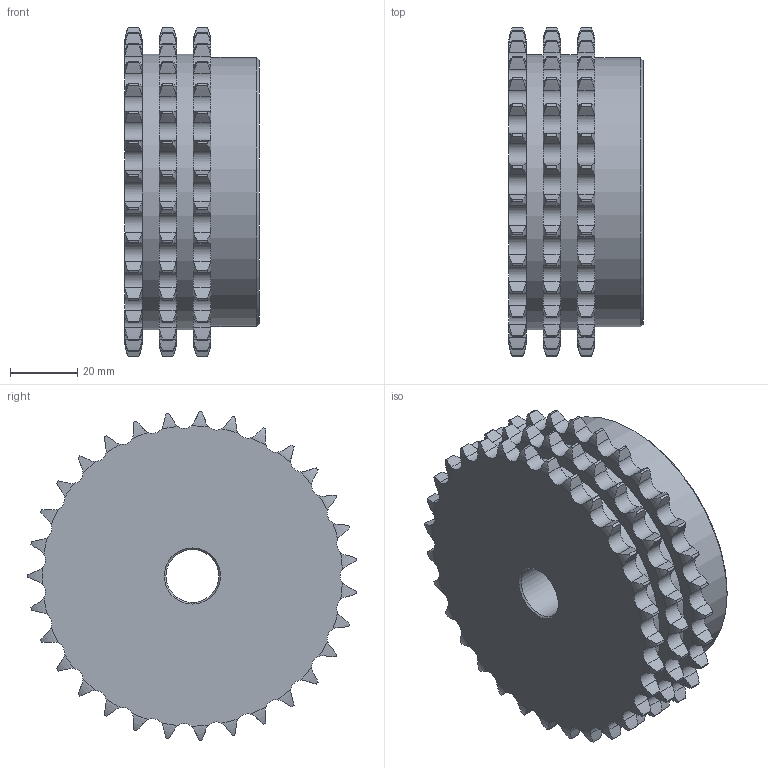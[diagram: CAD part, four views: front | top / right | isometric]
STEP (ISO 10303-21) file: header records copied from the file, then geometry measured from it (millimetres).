
FILE_DESCRIPTION(/* description */ (''),/* implementation_level */ '2;1');
FILE_NAME(/* name */ 'C:\Users\stagistaCAD\Desktop\10309031.stp',/* time_stamp */ '2018-06-13T10:14:23+02:00',/* author */ ('stagistacad'),/* organization */ (''),/* preprocessor_version */ 'ST-DEVELOPER v15.6',/* originating_system */ 'Autodesk Inventor 2015',/* authorisation */ '');
FILE_SCHEMA (('AUTOMOTIVE_DESIGN { 1 0 10303 214 3 1 1 }'));
Length unit declared in the file: millimetre
Products named in the file (1): 10309031
Bounding box: 40 x 97.59 x 97.71 mm (x, y, z)
Volume: 218808.2 mm3; surface area: 32332 mm2
Topology: 1 solids, 1 shells, 572 faces, 1692 edges, 1127 vertices
Faces by surface type: cylinder 376, torus 186, plane 7, cone 3
Full cylindrical faces by diameter (mm): 15.7 x1, 80 x1, 81.8 x2
Entity records: 21174 total; most frequent: CARTESIAN_POINT 6793, ORIENTED_EDGE 3370, DIRECTION 2656, EDGE_CURVE 1685, AXIS2_PLACEMENT_3D 1142, VERTEX_POINT 1127, B_SPLINE_CURVE_WITH_KNOTS 744, EDGE_LOOP 586
